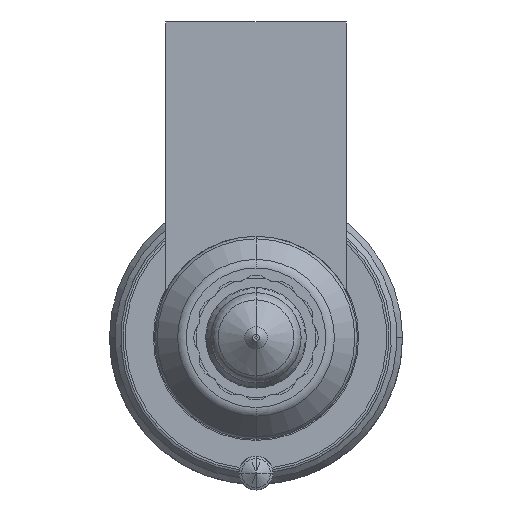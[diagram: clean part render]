
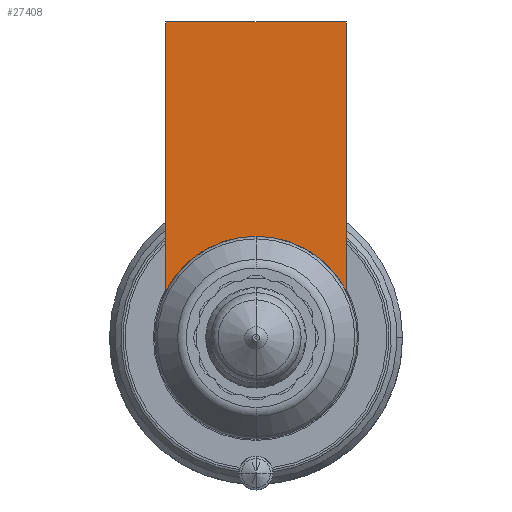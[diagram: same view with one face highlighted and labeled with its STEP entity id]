
A CAD part, front view. The second image highlights one B-rep face of the part: STEP entity #27408.
In plain terms, the highlighted planar face has unit normal (0, -1, 0).
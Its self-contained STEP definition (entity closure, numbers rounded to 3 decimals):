
#26601=DIRECTION('',(1.,0.,0.));
#26602=VECTOR('',#26601,16.);
#26603=CARTESIAN_POINT('',(-8.,-54.,28.));
#26604=LINE('',#26603,#26602);
#26609=CARTESIAN_POINT('',(0.,-54.,0.));
#26610=DIRECTION('',(0.,-1.,0.));
#26611=DIRECTION('',(0.889,0.,0.458));
#26612=AXIS2_PLACEMENT_3D('',#26609,#26610,#26611);
#26617=CARTESIAN_POINT('',(0.,-54.,0.));
#26618=DIRECTION('',(0.,-1.,0.));
#26619=DIRECTION('',(0.,0.,1.));
#26620=AXIS2_PLACEMENT_3D('',#26617,#26618,#26619);
#26646=DIRECTION('',(0.,0.,-1.));
#26647=VECTOR('',#26646,23.877);
#26648=CARTESIAN_POINT('',(-8.,-54.,28.));
#26649=LINE('',#26648,#26647);
#27260=DIRECTION('',(0.,0.,-1.));
#27261=VECTOR('',#27260,23.877);
#27262=CARTESIAN_POINT('',(8.,-54.,28.));
#27263=LINE('',#27262,#27261);
#27313=CARTESIAN_POINT('',(-8.,-54.,28.));
#27314=VERTEX_POINT('',#27313);
#27319=CARTESIAN_POINT('',(8.,-54.,28.));
#27320=VERTEX_POINT('',#27319);
#27323=CARTESIAN_POINT('',(-8.,-54.,4.123));
#27324=VERTEX_POINT('',#27323);
#27327=CARTESIAN_POINT('',(8.,-54.,4.123));
#27328=VERTEX_POINT('',#27327);
#27389=CARTESIAN_POINT('',(0.,-54.,9.));
#27390=VERTEX_POINT('',#27389);
#27391=CARTESIAN_POINT('',(0.,-54.,9.));
#27392=DIRECTION('',(0.,1.,0.));
#27393=DIRECTION('',(0.,0.,-1.));
#27394=AXIS2_PLACEMENT_3D('',#27391,#27392,#27393);
#27395=PLANE('',#27394);
#27397=ORIENTED_EDGE('',*,*,#27396,.F.);
#27399=ORIENTED_EDGE('',*,*,#27398,.T.);
#27401=ORIENTED_EDGE('',*,*,#27400,.T.);
#27403=ORIENTED_EDGE('',*,*,#27402,.T.);
#27405=ORIENTED_EDGE('',*,*,#27404,.T.);
#27406=EDGE_LOOP('',(#27397,#27399,#27401,#27403,#27405));
#27407=FACE_OUTER_BOUND('',#27406,.F.);
#27408=ADVANCED_FACE('',(#27407),#27395,.F.);
#26613=CIRCLE('',#26612,9.);
#26621=CIRCLE('',#26620,9.);
#27396=EDGE_CURVE('',#27314,#27324,#26649,.T.);
#27398=EDGE_CURVE('',#27314,#27320,#26604,.T.);
#27400=EDGE_CURVE('',#27320,#27328,#27263,.T.);
#27402=EDGE_CURVE('',#27328,#27390,#26613,.T.);
#27404=EDGE_CURVE('',#27390,#27324,#26621,.T.);
